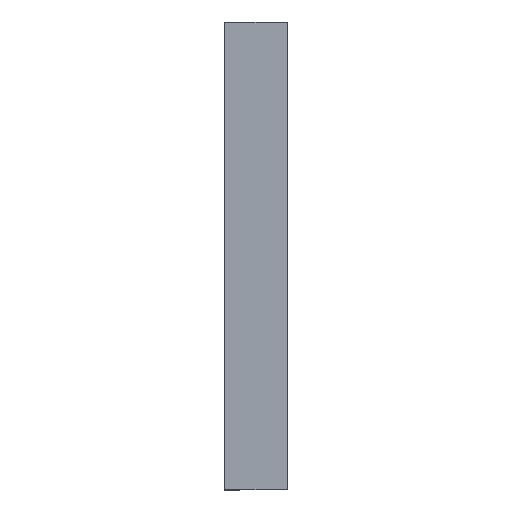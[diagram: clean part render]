
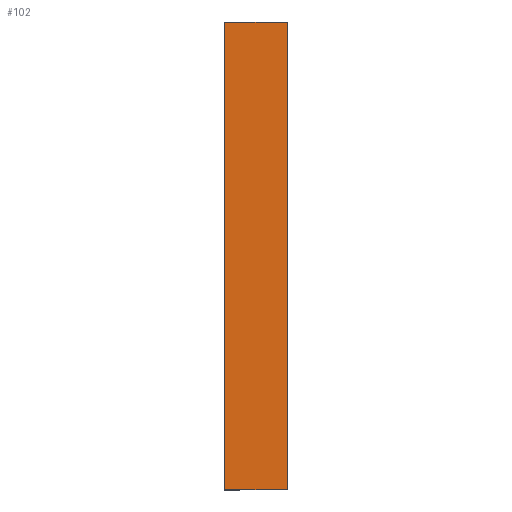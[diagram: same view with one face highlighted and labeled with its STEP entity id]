
A CAD part, top view. The second image highlights one B-rep face of the part: STEP entity #102.
In plain terms, the highlighted planar face has unit normal (0, 0, 1).
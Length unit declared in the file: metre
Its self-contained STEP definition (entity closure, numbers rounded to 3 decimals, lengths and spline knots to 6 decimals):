
#28=ORIENTED_EDGE('',*,*,#38,.F.);
#29=ORIENTED_EDGE('',*,*,#42,.T.);
#30=ORIENTED_EDGE('',*,*,#45,.T.);
#31=ORIENTED_EDGE('',*,*,#47,.F.);
#38=EDGE_CURVE('',#50,#51,#58,.T.);
#42=EDGE_CURVE('',#50,#53,#62,.T.);
#45=EDGE_CURVE('',#53,#55,#65,.T.);
#47=EDGE_CURVE('',#51,#55,#67,.T.);
#50=VERTEX_POINT('',#155);
#51=VERTEX_POINT('',#157);
#53=VERTEX_POINT('',#163);
#55=VERTEX_POINT('',#169);
#58=LINE('',#156,#70);
#62=LINE('',#164,#74);
#65=LINE('',#170,#77);
#67=LINE('',#173,#79);
#70=VECTOR('',#129,1.);
#74=VECTOR('',#135,1.);
#77=VECTOR('',#140,1.);
#79=VECTOR('',#144,1.);
#84=EDGE_LOOP('',(#28,#29,#30,#31));
#90=FACE_BOUND('',#84,.T.);
#96=PLANE('',#121);
#102=ADVANCED_FACE('',(#90),#96,.T.);
#121=AXIS2_PLACEMENT_3D('',#174,#145,#146);
#129=DIRECTION('',(1.,0.,0.));
#135=DIRECTION('',(0.,-1.,0.));
#140=DIRECTION('',(1.,0.,0.));
#144=DIRECTION('',(0.,-1.,0.));
#145=DIRECTION('',(0.,0.,1.));
#146=DIRECTION('',(1.,0.,0.));
#155=CARTESIAN_POINT('',(-0.120556,1.486855,0.0254));
#156=CARTESIAN_POINT('',(-0.018956,1.486855,0.0254));
#157=CARTESIAN_POINT('',(0.082644,1.486855,0.0254));
#163=CARTESIAN_POINT('',(-0.120556,-0.037145,0.0254));
#164=CARTESIAN_POINT('',(-0.120556,0.724855,0.0254));
#169=CARTESIAN_POINT('',(0.082644,-0.037145,0.0254));
#170=CARTESIAN_POINT('',(-0.018956,-0.037145,0.0254));
#173=CARTESIAN_POINT('',(0.082644,0.724855,0.0254));
#174=CARTESIAN_POINT('',(-0.018956,0.724855,0.0254));
